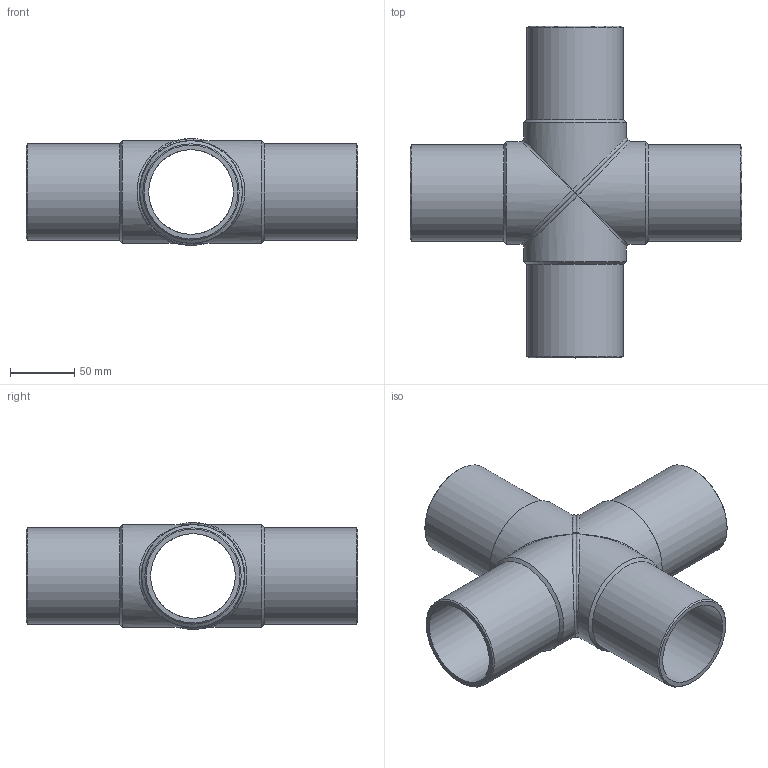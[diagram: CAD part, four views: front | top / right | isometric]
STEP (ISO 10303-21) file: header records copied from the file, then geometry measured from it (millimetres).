
FILE_DESCRIPTION(/* description */ ('Unknown'),/* implementation_level */ '2;1');
FILE_NAME(/* name */ 'CRP075B',/* time_stamp */ '2022-07-08T10:29:57+02:00',/* author */ ('Unknown'),/* organization */ ('Unknown'),/* preprocessor_version */ 'ST-DEVELOPER v18.102',/* originating_system */ 'Solid Edge',/* authorisation */ 'Unknown');
FILE_SCHEMA (('AUTOMOTIVE_DESIGN {1 0 10303 214 3 1 1}'));
Length unit declared in the file: millimetre
Products named in the file (3): CRP075B; CRP075B_mir1
Assembly tree (2 placements, depth 2):
  CRP075B
    CRP075B
    CRP075B_mir1
Bounding box: 258.5 x 258.5 x 82.99 mm (x, y, z)
Volume: 501030.3 mm3; surface area: 199098.6 mm2
Topology: 2 solids, 2 shells, 32 faces, 128 edges, 98 vertices
Faces by surface type: cylinder 12, cone 8, plane 6, bspline 6
Full cylindrical faces by diameter (mm): 66 x4, 75 x4, 80 x4
Entity records: 2969 total; most frequent: CARTESIAN_POINT 2051, ORIENTED_EDGE 196, DIRECTION 126, EDGE_CURVE 98, VERTEX_POINT 88, B_SPLINE_CURVE_WITH_KNOTS 64, AXIS2_PLACEMENT_3D 63, EDGE_LOOP 58
